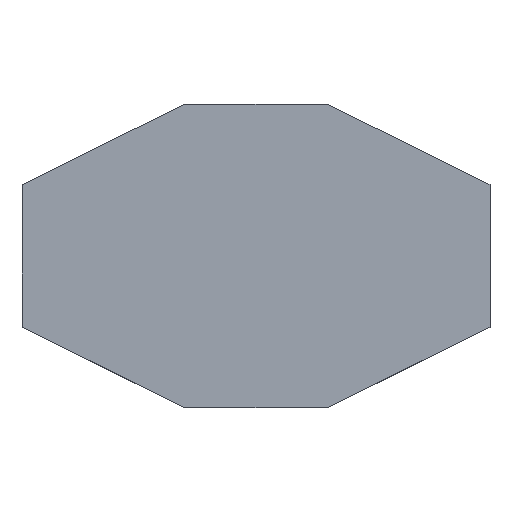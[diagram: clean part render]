
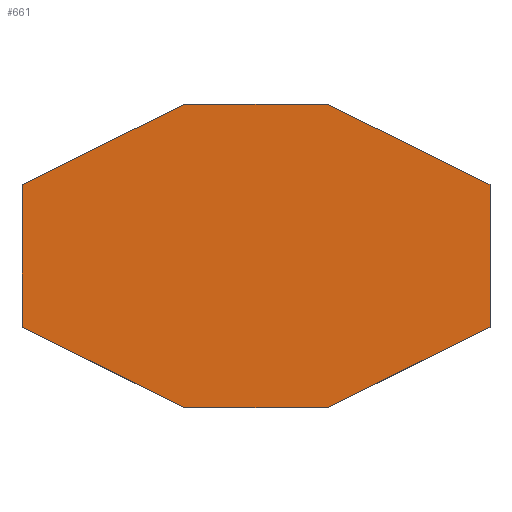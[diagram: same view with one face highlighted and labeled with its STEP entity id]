
A CAD part, top view. The second image highlights one B-rep face of the part: STEP entity #661.
In plain terms, the highlighted planar face has unit normal (0, 0, 1).
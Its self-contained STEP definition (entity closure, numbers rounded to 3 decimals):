
#39 = VERTEX_POINT('',#40);
#40 = CARTESIAN_POINT('',(-17.87,11.46,7.74));
#47 = PLANE('',#48);
#48 = AXIS2_PLACEMENT_3D('',#49,#50,#51);
#49 = CARTESIAN_POINT('',(-17.87,11.46,0.));
#50 = DIRECTION('',(1.,0.,-0.));
#51 = DIRECTION('',(0.,-1.,0.));
#59 = PLANE('',#60);
#60 = AXIS2_PLACEMENT_3D('',#61,#62,#63);
#61 = CARTESIAN_POINT('',(-4.185,18.225,0.));
#62 = DIRECTION('',(0.443,-0.896,0.));
#63 = DIRECTION('',(-0.896,-0.443,0.));
#71 = EDGE_CURVE('',#39,#72,#74,.T.);
#72 = VERTEX_POINT('',#73);
#73 = CARTESIAN_POINT('',(-17.87,-0.54,7.74));
#74 = SURFACE_CURVE('',#75,(#79,#86),.PCURVE_S1.);
#75 = LINE('',#76,#77);
#76 = CARTESIAN_POINT('',(-17.87,11.46,7.74));
#77 = VECTOR('',#78,1.);
#78 = DIRECTION('',(0.,-1.,0.));
#79 = PCURVE('',#47,#80);
#80 = DEFINITIONAL_REPRESENTATION('',(#81),#85);
#81 = LINE('',#82,#83);
#82 = CARTESIAN_POINT('',(0.,-7.74));
#83 = VECTOR('',#84,1.);
#84 = DIRECTION('',(1.,0.));
#85 = ( GEOMETRIC_REPRESENTATION_CONTEXT(2) 
PARAMETRIC_REPRESENTATION_CONTEXT() REPRESENTATION_CONTEXT('2D SPACE',''
  ) );
#86 = PCURVE('',#87,#92);
#87 = PLANE('',#88);
#88 = AXIS2_PLACEMENT_3D('',#89,#90,#91);
#89 = CARTESIAN_POINT('',(1.815,5.46,7.74));
#90 = DIRECTION('',(0.,0.,1.));
#91 = DIRECTION('',(1.,0.,0.));
#92 = DEFINITIONAL_REPRESENTATION('',(#93),#97);
#93 = LINE('',#94,#95);
#94 = CARTESIAN_POINT('',(-19.685,6.));
#95 = VECTOR('',#96,1.);
#96 = DIRECTION('',(0.,-1.));
#97 = ( GEOMETRIC_REPRESENTATION_CONTEXT(2) 
PARAMETRIC_REPRESENTATION_CONTEXT() REPRESENTATION_CONTEXT('2D SPACE',''
  ) );
#115 = PLANE('',#116);
#116 = AXIS2_PLACEMENT_3D('',#117,#118,#119);
#117 = CARTESIAN_POINT('',(-17.87,-0.54,0.));
#118 = DIRECTION('',(0.443,0.896,-0.));
#119 = DIRECTION('',(0.896,-0.443,0.));
#157 = EDGE_CURVE('',#72,#158,#160,.T.);
#158 = VERTEX_POINT('',#159);
#159 = CARTESIAN_POINT('',(-4.185,-7.305,7.74));
#160 = SURFACE_CURVE('',#161,(#165,#172),.PCURVE_S1.);
#161 = LINE('',#162,#163);
#162 = CARTESIAN_POINT('',(-17.87,-0.54,7.74));
#163 = VECTOR('',#164,1.);
#164 = DIRECTION('',(0.896,-0.443,0.));
#165 = PCURVE('',#115,#166);
#166 = DEFINITIONAL_REPRESENTATION('',(#167),#171);
#167 = LINE('',#168,#169);
#168 = CARTESIAN_POINT('',(0.,-7.74));
#169 = VECTOR('',#170,1.);
#170 = DIRECTION('',(1.,0.));
#171 = ( GEOMETRIC_REPRESENTATION_CONTEXT(2) 
PARAMETRIC_REPRESENTATION_CONTEXT() REPRESENTATION_CONTEXT('2D SPACE',''
  ) );
#172 = PCURVE('',#87,#173);
#173 = DEFINITIONAL_REPRESENTATION('',(#174),#178);
#174 = LINE('',#175,#176);
#175 = CARTESIAN_POINT('',(-19.685,-6.));
#176 = VECTOR('',#177,1.);
#177 = DIRECTION('',(0.896,-0.443));
#178 = ( GEOMETRIC_REPRESENTATION_CONTEXT(2) 
PARAMETRIC_REPRESENTATION_CONTEXT() REPRESENTATION_CONTEXT('2D SPACE',''
  ) );
#196 = PLANE('',#197);
#197 = AXIS2_PLACEMENT_3D('',#198,#199,#200);
#198 = CARTESIAN_POINT('',(-4.185,-7.305,0.));
#199 = DIRECTION('',(0.,1.,0.));
#200 = DIRECTION('',(1.,0.,0.));
#233 = EDGE_CURVE('',#158,#234,#236,.T.);
#234 = VERTEX_POINT('',#235);
#235 = CARTESIAN_POINT('',(7.815,-7.305,7.74));
#236 = SURFACE_CURVE('',#237,(#241,#248),.PCURVE_S1.);
#237 = LINE('',#238,#239);
#238 = CARTESIAN_POINT('',(-4.185,-7.305,7.74));
#239 = VECTOR('',#240,1.);
#240 = DIRECTION('',(1.,0.,0.));
#241 = PCURVE('',#196,#242);
#242 = DEFINITIONAL_REPRESENTATION('',(#243),#247);
#243 = LINE('',#244,#245);
#244 = CARTESIAN_POINT('',(0.,-7.74));
#245 = VECTOR('',#246,1.);
#246 = DIRECTION('',(1.,0.));
#247 = ( GEOMETRIC_REPRESENTATION_CONTEXT(2) 
PARAMETRIC_REPRESENTATION_CONTEXT() REPRESENTATION_CONTEXT('2D SPACE',''
  ) );
#248 = PCURVE('',#87,#249);
#249 = DEFINITIONAL_REPRESENTATION('',(#250),#254);
#250 = LINE('',#251,#252);
#251 = CARTESIAN_POINT('',(-6.,-12.765));
#252 = VECTOR('',#253,1.);
#253 = DIRECTION('',(1.,0.));
#254 = ( GEOMETRIC_REPRESENTATION_CONTEXT(2) 
PARAMETRIC_REPRESENTATION_CONTEXT() REPRESENTATION_CONTEXT('2D SPACE',''
  ) );
#272 = PLANE('',#273);
#273 = AXIS2_PLACEMENT_3D('',#274,#275,#276);
#274 = CARTESIAN_POINT('',(7.815,-7.305,0.));
#275 = DIRECTION('',(-0.443,0.896,0.));
#276 = DIRECTION('',(0.896,0.443,0.));
#309 = EDGE_CURVE('',#234,#310,#312,.T.);
#310 = VERTEX_POINT('',#311);
#311 = CARTESIAN_POINT('',(21.5,-0.54,7.74));
#312 = SURFACE_CURVE('',#313,(#317,#324),.PCURVE_S1.);
#313 = LINE('',#314,#315);
#314 = CARTESIAN_POINT('',(7.815,-7.305,7.74));
#315 = VECTOR('',#316,1.);
#316 = DIRECTION('',(0.896,0.443,0.));
#317 = PCURVE('',#272,#318);
#318 = DEFINITIONAL_REPRESENTATION('',(#319),#323);
#319 = LINE('',#320,#321);
#320 = CARTESIAN_POINT('',(0.,-7.74));
#321 = VECTOR('',#322,1.);
#322 = DIRECTION('',(1.,0.));
#323 = ( GEOMETRIC_REPRESENTATION_CONTEXT(2) 
PARAMETRIC_REPRESENTATION_CONTEXT() REPRESENTATION_CONTEXT('2D SPACE',''
  ) );
#324 = PCURVE('',#87,#325);
#325 = DEFINITIONAL_REPRESENTATION('',(#326),#330);
#326 = LINE('',#327,#328);
#327 = CARTESIAN_POINT('',(6.,-12.765));
#328 = VECTOR('',#329,1.);
#329 = DIRECTION('',(0.896,0.443));
#330 = ( GEOMETRIC_REPRESENTATION_CONTEXT(2) 
PARAMETRIC_REPRESENTATION_CONTEXT() REPRESENTATION_CONTEXT('2D SPACE',''
  ) );
#348 = PLANE('',#349);
#349 = AXIS2_PLACEMENT_3D('',#350,#351,#352);
#350 = CARTESIAN_POINT('',(21.5,-0.54,0.));
#351 = DIRECTION('',(-1.,0.,0.));
#352 = DIRECTION('',(0.,1.,0.));
#385 = EDGE_CURVE('',#310,#386,#388,.T.);
#386 = VERTEX_POINT('',#387);
#387 = CARTESIAN_POINT('',(21.5,11.46,7.74));
#388 = SURFACE_CURVE('',#389,(#393,#400),.PCURVE_S1.);
#389 = LINE('',#390,#391);
#390 = CARTESIAN_POINT('',(21.5,-0.54,7.74));
#391 = VECTOR('',#392,1.);
#392 = DIRECTION('',(0.,1.,0.));
#393 = PCURVE('',#348,#394);
#394 = DEFINITIONAL_REPRESENTATION('',(#395),#399);
#395 = LINE('',#396,#397);
#396 = CARTESIAN_POINT('',(0.,-7.74));
#397 = VECTOR('',#398,1.);
#398 = DIRECTION('',(1.,0.));
#399 = ( GEOMETRIC_REPRESENTATION_CONTEXT(2) 
PARAMETRIC_REPRESENTATION_CONTEXT() REPRESENTATION_CONTEXT('2D SPACE',''
  ) );
#400 = PCURVE('',#87,#401);
#401 = DEFINITIONAL_REPRESENTATION('',(#402),#406);
#402 = LINE('',#403,#404);
#403 = CARTESIAN_POINT('',(19.685,-6.));
#404 = VECTOR('',#405,1.);
#405 = DIRECTION('',(0.,1.));
#406 = ( GEOMETRIC_REPRESENTATION_CONTEXT(2) 
PARAMETRIC_REPRESENTATION_CONTEXT() REPRESENTATION_CONTEXT('2D SPACE',''
  ) );
#424 = PLANE('',#425);
#425 = AXIS2_PLACEMENT_3D('',#426,#427,#428);
#426 = CARTESIAN_POINT('',(21.5,11.46,0.));
#427 = DIRECTION('',(-0.443,-0.896,0.));
#428 = DIRECTION('',(-0.896,0.443,0.));
#461 = EDGE_CURVE('',#386,#462,#464,.T.);
#462 = VERTEX_POINT('',#463);
#463 = CARTESIAN_POINT('',(7.815,18.225,7.74));
#464 = SURFACE_CURVE('',#465,(#469,#476),.PCURVE_S1.);
#465 = LINE('',#466,#467);
#466 = CARTESIAN_POINT('',(21.5,11.46,7.74));
#467 = VECTOR('',#468,1.);
#468 = DIRECTION('',(-0.896,0.443,0.));
#469 = PCURVE('',#424,#470);
#470 = DEFINITIONAL_REPRESENTATION('',(#471),#475);
#471 = LINE('',#472,#473);
#472 = CARTESIAN_POINT('',(0.,-7.74));
#473 = VECTOR('',#474,1.);
#474 = DIRECTION('',(1.,0.));
#475 = ( GEOMETRIC_REPRESENTATION_CONTEXT(2) 
PARAMETRIC_REPRESENTATION_CONTEXT() REPRESENTATION_CONTEXT('2D SPACE',''
  ) );
#476 = PCURVE('',#87,#477);
#477 = DEFINITIONAL_REPRESENTATION('',(#478),#482);
#478 = LINE('',#479,#480);
#479 = CARTESIAN_POINT('',(19.685,6.));
#480 = VECTOR('',#481,1.);
#481 = DIRECTION('',(-0.896,0.443));
#482 = ( GEOMETRIC_REPRESENTATION_CONTEXT(2) 
PARAMETRIC_REPRESENTATION_CONTEXT() REPRESENTATION_CONTEXT('2D SPACE',''
  ) );
#500 = PLANE('',#501);
#501 = AXIS2_PLACEMENT_3D('',#502,#503,#504);
#502 = CARTESIAN_POINT('',(7.815,18.225,0.));
#503 = DIRECTION('',(0.,-1.,0.));
#504 = DIRECTION('',(-1.,0.,0.));
#537 = EDGE_CURVE('',#462,#538,#540,.T.);
#538 = VERTEX_POINT('',#539);
#539 = CARTESIAN_POINT('',(-4.185,18.225,7.74));
#540 = SURFACE_CURVE('',#541,(#545,#552),.PCURVE_S1.);
#541 = LINE('',#542,#543);
#542 = CARTESIAN_POINT('',(7.815,18.225,7.74));
#543 = VECTOR('',#544,1.);
#544 = DIRECTION('',(-1.,0.,0.));
#545 = PCURVE('',#500,#546);
#546 = DEFINITIONAL_REPRESENTATION('',(#547),#551);
#547 = LINE('',#548,#549);
#548 = CARTESIAN_POINT('',(0.,-7.74));
#549 = VECTOR('',#550,1.);
#550 = DIRECTION('',(1.,0.));
#551 = ( GEOMETRIC_REPRESENTATION_CONTEXT(2) 
PARAMETRIC_REPRESENTATION_CONTEXT() REPRESENTATION_CONTEXT('2D SPACE',''
  ) );
#552 = PCURVE('',#87,#553);
#553 = DEFINITIONAL_REPRESENTATION('',(#554),#558);
#554 = LINE('',#555,#556);
#555 = CARTESIAN_POINT('',(6.,12.765));
#556 = VECTOR('',#557,1.);
#557 = DIRECTION('',(-1.,0.));
#558 = ( GEOMETRIC_REPRESENTATION_CONTEXT(2) 
PARAMETRIC_REPRESENTATION_CONTEXT() REPRESENTATION_CONTEXT('2D SPACE',''
  ) );
#608 = EDGE_CURVE('',#538,#39,#609,.T.);
#609 = SURFACE_CURVE('',#610,(#614,#621),.PCURVE_S1.);
#610 = LINE('',#611,#612);
#611 = CARTESIAN_POINT('',(-4.185,18.225,7.74));
#612 = VECTOR('',#613,1.);
#613 = DIRECTION('',(-0.896,-0.443,0.));
#614 = PCURVE('',#59,#615);
#615 = DEFINITIONAL_REPRESENTATION('',(#616),#620);
#616 = LINE('',#617,#618);
#617 = CARTESIAN_POINT('',(0.,-7.74));
#618 = VECTOR('',#619,1.);
#619 = DIRECTION('',(1.,0.));
#620 = ( GEOMETRIC_REPRESENTATION_CONTEXT(2) 
PARAMETRIC_REPRESENTATION_CONTEXT() REPRESENTATION_CONTEXT('2D SPACE',''
  ) );
#621 = PCURVE('',#87,#622);
#622 = DEFINITIONAL_REPRESENTATION('',(#623),#627);
#623 = LINE('',#624,#625);
#624 = CARTESIAN_POINT('',(-6.,12.765));
#625 = VECTOR('',#626,1.);
#626 = DIRECTION('',(-0.896,-0.443));
#627 = ( GEOMETRIC_REPRESENTATION_CONTEXT(2) 
PARAMETRIC_REPRESENTATION_CONTEXT() REPRESENTATION_CONTEXT('2D SPACE',''
  ) );
#661 = ADVANCED_FACE('',(#662),#87,.T.);
#662 = FACE_BOUND('',#663,.T.);
#663 = EDGE_LOOP('',(#664,#665,#666,#667,#668,#669,#670,#671));
#664 = ORIENTED_EDGE('',*,*,#71,.T.);
#665 = ORIENTED_EDGE('',*,*,#157,.T.);
#666 = ORIENTED_EDGE('',*,*,#233,.T.);
#667 = ORIENTED_EDGE('',*,*,#309,.T.);
#668 = ORIENTED_EDGE('',*,*,#385,.T.);
#669 = ORIENTED_EDGE('',*,*,#461,.T.);
#670 = ORIENTED_EDGE('',*,*,#537,.T.);
#671 = ORIENTED_EDGE('',*,*,#608,.T.);
